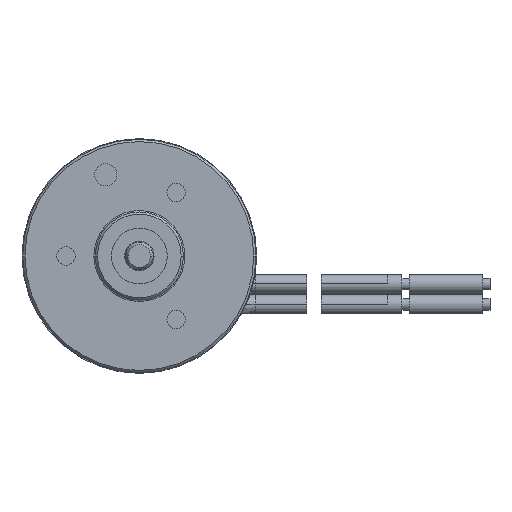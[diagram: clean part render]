
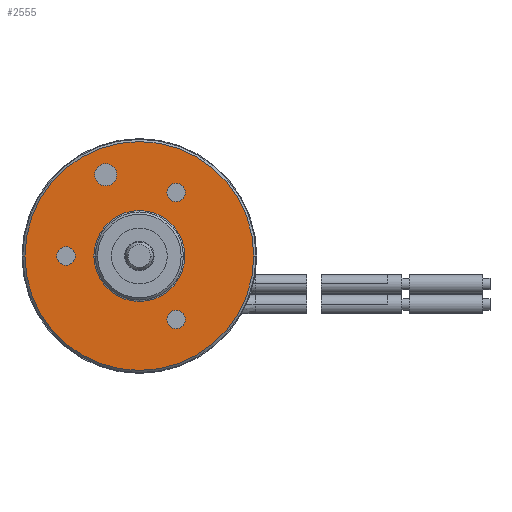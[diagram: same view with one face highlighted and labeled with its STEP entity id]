
A CAD part, left-side view. The second image highlights one B-rep face of the part: STEP entity #2555.
In plain terms, the highlighted planar face has unit normal (-1, 0, 0).
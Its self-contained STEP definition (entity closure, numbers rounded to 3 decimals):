
#923=CARTESIAN_POINT('',(0.,0.,0.));
#924=DIRECTION('',(-1.,0.,0.));
#925=DIRECTION('',(0.,1.,0.));
#926=AXIS2_PLACEMENT_3D('',#923,#924,#925);
#931=CARTESIAN_POINT('',(0.,0.,0.));
#932=DIRECTION('',(-1.,0.,0.));
#933=DIRECTION('',(0.,-1.,0.));
#934=AXIS2_PLACEMENT_3D('',#931,#932,#933);
#939=CARTESIAN_POINT('',(0.,2.296,5.543));
#940=DIRECTION('',(1.,0.,0.));
#941=DIRECTION('',(0.,1.,0.));
#942=AXIS2_PLACEMENT_3D('',#939,#940,#941);
#947=CARTESIAN_POINT('',(0.,2.296,5.543));
#948=DIRECTION('',(1.,0.,0.));
#949=DIRECTION('',(0.,-1.,0.));
#950=AXIS2_PLACEMENT_3D('',#947,#948,#949);
#955=CARTESIAN_POINT('',(0.,5.,0.));
#956=DIRECTION('',(-1.,0.,0.));
#957=DIRECTION('',(0.,1.,0.));
#958=AXIS2_PLACEMENT_3D('',#955,#956,#957);
#963=CARTESIAN_POINT('',(0.,5.,0.));
#964=DIRECTION('',(-1.,0.,0.));
#965=DIRECTION('',(0.,-1.,0.));
#966=AXIS2_PLACEMENT_3D('',#963,#964,#965);
#971=CARTESIAN_POINT('',(0.,-2.5,4.33));
#972=DIRECTION('',(-1.,0.,0.));
#973=DIRECTION('',(0.,-0.5,0.866));
#974=AXIS2_PLACEMENT_3D('',#971,#972,#973);
#979=CARTESIAN_POINT('',(0.,-2.5,4.33));
#980=DIRECTION('',(-1.,0.,0.));
#981=DIRECTION('',(0.,0.5,-0.866));
#982=AXIS2_PLACEMENT_3D('',#979,#980,#981);
#987=CARTESIAN_POINT('',(0.,-2.5,-4.33));
#988=DIRECTION('',(-1.,0.,0.));
#989=DIRECTION('',(0.,-0.5,-0.866));
#990=AXIS2_PLACEMENT_3D('',#987,#988,#989);
#995=CARTESIAN_POINT('',(0.,-2.5,-4.33));
#996=DIRECTION('',(-1.,0.,0.));
#997=DIRECTION('',(0.,0.5,0.866));
#998=AXIS2_PLACEMENT_3D('',#995,#996,#997);
#1003=CARTESIAN_POINT('',(0.,0.,0.));
#1004=DIRECTION('',(1.,0.,0.));
#1005=DIRECTION('',(0.,-1.,0.));
#1006=AXIS2_PLACEMENT_3D('',#1003,#1004,#1005);
#1011=CARTESIAN_POINT('',(0.,0.,0.));
#1012=DIRECTION('',(1.,0.,0.));
#1013=DIRECTION('',(0.,1.,0.));
#1014=AXIS2_PLACEMENT_3D('',#1011,#1012,#1013);
#1486=CARTESIAN_POINT('',(0.,7.8,0.));
#1487=CARTESIAN_POINT('',(0.,-7.8,0.));
#1488=VERTEX_POINT('',#1486);
#1489=VERTEX_POINT('',#1487);
#1502=CARTESIAN_POINT('',(0.,3.046,5.543));
#1503=CARTESIAN_POINT('',(0.,1.546,5.543));
#1504=VERTEX_POINT('',#1502);
#1505=VERTEX_POINT('',#1503);
#1506=CARTESIAN_POINT('',(0.,5.625,0.));
#1507=CARTESIAN_POINT('',(0.,4.375,0.));
#1508=VERTEX_POINT('',#1506);
#1509=VERTEX_POINT('',#1507);
#1510=CARTESIAN_POINT('',(0.,-2.813,4.871));
#1511=CARTESIAN_POINT('',(0.,-2.188,3.789));
#1512=VERTEX_POINT('',#1510);
#1513=VERTEX_POINT('',#1511);
#1514=CARTESIAN_POINT('',(0.,-2.813,-4.871));
#1515=CARTESIAN_POINT('',(0.,-2.188,-3.789));
#1516=VERTEX_POINT('',#1514);
#1517=VERTEX_POINT('',#1515);
#1526=CARTESIAN_POINT('',(0.,-3.1,0.));
#1527=CARTESIAN_POINT('',(0.,3.1,0.));
#1528=VERTEX_POINT('',#1526);
#1529=VERTEX_POINT('',#1527);
#2515=CARTESIAN_POINT('',(0.,0.,0.));
#2516=DIRECTION('',(-1.,0.,0.));
#2517=DIRECTION('',(0.,1.,0.));
#2518=AXIS2_PLACEMENT_3D('',#2515,#2516,#2517);
#2519=PLANE('',#2518);
#2521=ORIENTED_EDGE('',*,*,#2520,.F.);
#2522=ORIENTED_EDGE('',*,*,#2505,.F.);
#2523=EDGE_LOOP('',(#2521,#2522));
#2524=FACE_OUTER_BOUND('',#2523,.F.);
#2526=ORIENTED_EDGE('',*,*,#2525,.F.);
#2528=ORIENTED_EDGE('',*,*,#2527,.F.);
#2529=EDGE_LOOP('',(#2526,#2528));
#2530=FACE_BOUND('',#2529,.F.);
#2532=ORIENTED_EDGE('',*,*,#2531,.T.);
#2534=ORIENTED_EDGE('',*,*,#2533,.T.);
#2535=EDGE_LOOP('',(#2532,#2534));
#2536=FACE_BOUND('',#2535,.F.);
#2538=ORIENTED_EDGE('',*,*,#2537,.T.);
#2540=ORIENTED_EDGE('',*,*,#2539,.T.);
#2541=EDGE_LOOP('',(#2538,#2540));
#2542=FACE_BOUND('',#2541,.F.);
#2544=ORIENTED_EDGE('',*,*,#2543,.T.);
#2546=ORIENTED_EDGE('',*,*,#2545,.T.);
#2547=EDGE_LOOP('',(#2544,#2546));
#2548=FACE_BOUND('',#2547,.F.);
#2550=ORIENTED_EDGE('',*,*,#2549,.F.);
#2552=ORIENTED_EDGE('',*,*,#2551,.F.);
#2553=EDGE_LOOP('',(#2550,#2552));
#2554=FACE_BOUND('',#2553,.F.);
#2555=ADVANCED_FACE('',(#2524,#2530,#2536,#2542,#2548,#2554),#2519,.T.);
#927=CIRCLE('',#926,7.8);
#935=CIRCLE('',#934,7.8);
#943=CIRCLE('',#942,0.75);
#951=CIRCLE('',#950,0.75);
#959=CIRCLE('',#958,0.625);
#967=CIRCLE('',#966,0.625);
#975=CIRCLE('',#974,0.625);
#983=CIRCLE('',#982,0.625);
#991=CIRCLE('',#990,0.625);
#999=CIRCLE('',#998,0.625);
#1007=CIRCLE('',#1006,3.1);
#1015=CIRCLE('',#1014,3.1);
#2505=EDGE_CURVE('',#1489,#1488,#935,.T.);
#2520=EDGE_CURVE('',#1488,#1489,#927,.T.);
#2525=EDGE_CURVE('',#1504,#1505,#943,.T.);
#2527=EDGE_CURVE('',#1505,#1504,#951,.T.);
#2531=EDGE_CURVE('',#1508,#1509,#959,.T.);
#2533=EDGE_CURVE('',#1509,#1508,#967,.T.);
#2537=EDGE_CURVE('',#1512,#1513,#975,.T.);
#2539=EDGE_CURVE('',#1513,#1512,#983,.T.);
#2543=EDGE_CURVE('',#1516,#1517,#991,.T.);
#2545=EDGE_CURVE('',#1517,#1516,#999,.T.);
#2549=EDGE_CURVE('',#1528,#1529,#1007,.T.);
#2551=EDGE_CURVE('',#1529,#1528,#1015,.T.);
